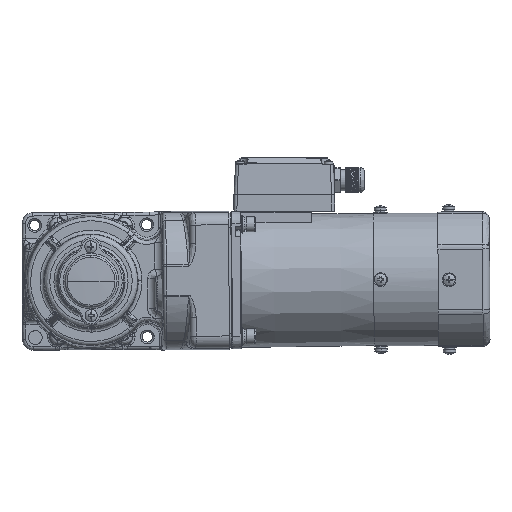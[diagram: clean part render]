
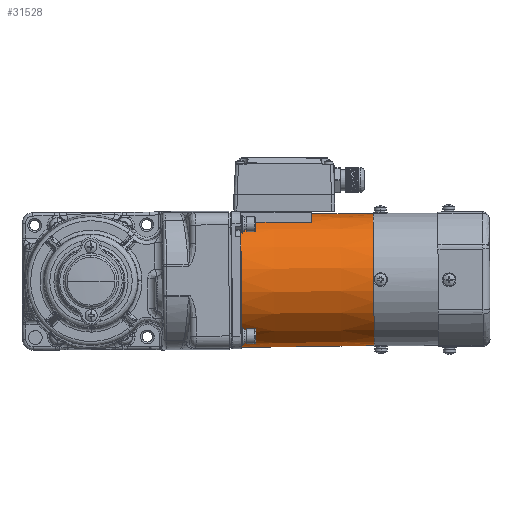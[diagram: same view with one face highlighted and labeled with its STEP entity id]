
A CAD part, left-side view. The second image highlights one B-rep face of the part: STEP entity #31528.
In plain terms, the highlighted conical face has half-angle 0.5 degrees and reference radius 44 mm.
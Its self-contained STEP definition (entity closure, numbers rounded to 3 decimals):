
#1940 = DIRECTION ( 'NONE',  ( 1., 0., 0. ) ) ;
#3812 = CARTESIAN_POINT ( 'NONE',  ( 16.059, -29.128, 219.75 ) ) ;
#4801 = AXIS2_PLACEMENT_3D ( 'NONE', #96342, #65053, #6882 ) ;
#6882 = DIRECTION ( 'NONE',  ( 1., 0., 0. ) ) ;
#7993 = CARTESIAN_POINT ( 'NONE',  ( 15.924, -29.371, 219.97 ) ) ;
#9428 = ORIENTED_EDGE ( 'NONE', *, *, #117691, .T. ) ;
#10467 = CARTESIAN_POINT ( 'NONE',  ( 15.92, -29.379, 220.047 ) ) ;
#11715 = CIRCLE ( 'NONE', #86748, 43.594 ) ;
#13412 = ORIENTED_EDGE ( 'NONE', *, *, #83285, .T. ) ;
#14928 = CARTESIAN_POINT ( 'NONE',  ( 16.086, -29.079, 219.75 ) ) ;
#16023 = ORIENTED_EDGE ( 'NONE', *, *, #64312, .F. ) ;
#16494 = EDGE_LOOP ( 'NONE', ( #92045, #48912, #18537, #13412, #16023, #9428, #49782 ) ) ;
#18537 = ORIENTED_EDGE ( 'NONE', *, *, #107508, .T. ) ;
#20146 = AXIS2_PLACEMENT_3D ( 'NONE', #65228, #54783, #105003 ) ;
#22984 = CONICAL_SURFACE ( 'NONE', #85492, 44., 0.009 ) ;
#25419 = CARTESIAN_POINT ( 'NONE',  ( 15.97, -29.287, 219.834 ) ) ;
#28656 = CARTESIAN_POINT ( 'NONE',  ( 16.153, -29.782, 266.25 ) ) ;
#28675 = LINE ( 'NONE', #108281, #46350 ) ;
#30449 = DIRECTION ( 'NONE',  ( 0., 0., -1. ) ) ;
#31334 = CARTESIAN_POINT ( 'NONE',  ( 15.942, -29.337, 219.895 ) ) ;
#31392 = FACE_OUTER_BOUND ( 'NONE', #16494, .T. ) ;
#31528 = ADVANCED_FACE ( 'NONE', ( #31392 ), #22984, .T. ) ;
#32618 = CARTESIAN_POINT ( 'NONE',  ( 16.035, -29.171, 219.762 ) ) ;
#33907 = CARTESIAN_POINT ( 'NONE',  ( 15.983, -29.264, 219.813 ) ) ;
#39339 = CARTESIAN_POINT ( 'NONE',  ( 15.958, -29.309, 219.857 ) ) ;
#40382 = VERTEX_POINT ( 'NONE', #106881 ) ;
#44546 = CIRCLE ( 'NONE', #4801, 43.241 ) ;
#45794 = VERTEX_POINT ( 'NONE', #10467 ) ;
#46350 = VECTOR ( 'NONE', #118759, 1000. ) ;
#47829 = CARTESIAN_POINT ( 'NONE',  ( 15.937, -29.347, 219.913 ) ) ;
#48643 = B_SPLINE_CURVE_WITH_KNOTS ( 'NONE', 3,
 ( #99147, #109562, #97848, #28656 ),
 .UNSPECIFIED., .F., .F.,
 ( 4, 4 ),
 ( 0., 0.046 ),
 .UNSPECIFIED. ) ;
#48912 = ORIENTED_EDGE ( 'NONE', *, *, #63726, .T. ) ;
#49773 = EDGE_CURVE ( 'NONE', #68459, #84658, #113046, .T. ) ;
#49782 = ORIENTED_EDGE ( 'NONE', *, *, #93617, .T. ) ;
#49899 = CARTESIAN_POINT ( 'NONE',  ( -65.952, -7.782, 266.25 ) ) ;
#50697 = DIRECTION ( 'NONE',  ( 1., 0., 0. ) ) ;
#53476 = CARTESIAN_POINT ( 'NONE',  ( 15.997, -29.239, 219.794 ) ) ;
#54783 = DIRECTION ( 'NONE',  ( 0., 0., -1. ) ) ;
#55648 = CARTESIAN_POINT ( 'NONE',  ( 21.642, -7.782, 219.75 ) ) ;
#55958 = CARTESIAN_POINT ( 'NONE',  ( 16.153, -29.782, 266.25 ) ) ;
#59460 = VERTEX_POINT ( 'NONE', #55648 ) ;
#63726 = EDGE_CURVE ( 'NONE', #68459, #40382, #44546, .T. ) ;
#64312 = EDGE_CURVE ( 'NONE', #45794, #88062, #108546, .T. ) ;
#64735 = DIRECTION ( 'NONE',  ( -0.009, 0., 1. ) ) ;
#65053 = DIRECTION ( 'NONE',  ( 0., 0., 1. ) ) ;
#65228 = CARTESIAN_POINT ( 'NONE',  ( -21.952, -7.782, 266.25 ) ) ;
#68084 = CIRCLE ( 'NONE', #20146, 44. ) ;
#68459 = VERTEX_POINT ( 'NONE', #118572 ) ;
#71157 = CARTESIAN_POINT ( 'NONE',  ( 15.968, -29.29, 219.837 ) ) ;
#73525 = VERTEX_POINT ( 'NONE', #55958 ) ;
#80962 = CARTESIAN_POINT ( 'NONE',  ( -21.952, -7.782, 266.25 ) ) ;
#83285 = EDGE_CURVE ( 'NONE', #59460, #88062, #11715, .T. ) ;
#84658 = VERTEX_POINT ( 'NONE', #49899 ) ;
#85492 = AXIS2_PLACEMENT_3D ( 'NONE', #80962, #120153, #1940 ) ;
#86748 = AXIS2_PLACEMENT_3D ( 'NONE', #109417, #30449, #50697 ) ;
#88062 = VERTEX_POINT ( 'NONE', #99787 ) ;
#88947 = CARTESIAN_POINT ( 'NONE',  ( 15.92, -29.378, 220.009 ) ) ;
#92045 = ORIENTED_EDGE ( 'NONE', *, *, #49773, .F. ) ;
#93617 = EDGE_CURVE ( 'NONE', #73525, #84658, #68084, .T. ) ;
#94073 = CARTESIAN_POINT ( 'NONE',  ( -65.952, -7.782, 266.25 ) ) ;
#96342 = CARTESIAN_POINT ( 'NONE',  ( -21.952, -7.782, 179.25 ) ) ;
#97848 = CARTESIAN_POINT ( 'NONE',  ( 16.076, -29.648, 250.849 ) ) ;
#99147 = CARTESIAN_POINT ( 'NONE',  ( 15.92, -29.379, 220.047 ) ) ;
#99787 = CARTESIAN_POINT ( 'NONE',  ( 16.086, -29.079, 219.75 ) ) ;
#104395 = VECTOR ( 'NONE', #64735, 1000. ) ;
#105003 = DIRECTION ( 'NONE',  ( 1., 0., 0. ) ) ;
#106881 = CARTESIAN_POINT ( 'NONE',  ( 21.289, -7.782, 179.25 ) ) ;
#107508 = EDGE_CURVE ( 'NONE', #40382, #59460, #28675, .T. ) ;
#108281 = CARTESIAN_POINT ( 'NONE',  ( 22.048, -7.782, 266.25 ) ) ;
#108546 = B_SPLINE_CURVE_WITH_KNOTS ( 'NONE', 3,
 ( #118326, #88947, #7993, #47829, #31334, #128779, #39339, #118984, #71157, #25419, #122655, #33907, #53476, #32618, #3812, #14928 ),
 .UNSPECIFIED., .F., .F.,
 ( 4, 2, 2, 1, 1, 2, 2, 2, 4 ),
 ( 0., 0.25, 0.375, 0.437, 0.469, 0.484, 0.5, 0.75, 1. ),
 .UNSPECIFIED. ) ;
#109417 = CARTESIAN_POINT ( 'NONE',  ( -21.952, -7.782, 219.75 ) ) ;
#109562 = CARTESIAN_POINT ( 'NONE',  ( 15.998, -29.513, 235.448 ) ) ;
#113046 = LINE ( 'NONE', #94073, #104395 ) ;
#117691 = EDGE_CURVE ( 'NONE', #45794, #73525, #48643, .T. ) ;
#118326 = CARTESIAN_POINT ( 'NONE',  ( 15.92, -29.379, 220.047 ) ) ;
#118572 = CARTESIAN_POINT ( 'NONE',  ( -65.193, -7.782, 179.25 ) ) ;
#118759 = DIRECTION ( 'NONE',  ( 0.009, 0., 1. ) ) ;
#118984 = CARTESIAN_POINT ( 'NONE',  ( 15.965, -29.296, 219.843 ) ) ;
#120153 = DIRECTION ( 'NONE',  ( 0., 0., 1. ) ) ;
#122655 = CARTESIAN_POINT ( 'NONE',  ( 15.972, -29.284, 219.831 ) ) ;
#128779 = CARTESIAN_POINT ( 'NONE',  ( 15.952, -29.319, 219.869 ) ) ;
